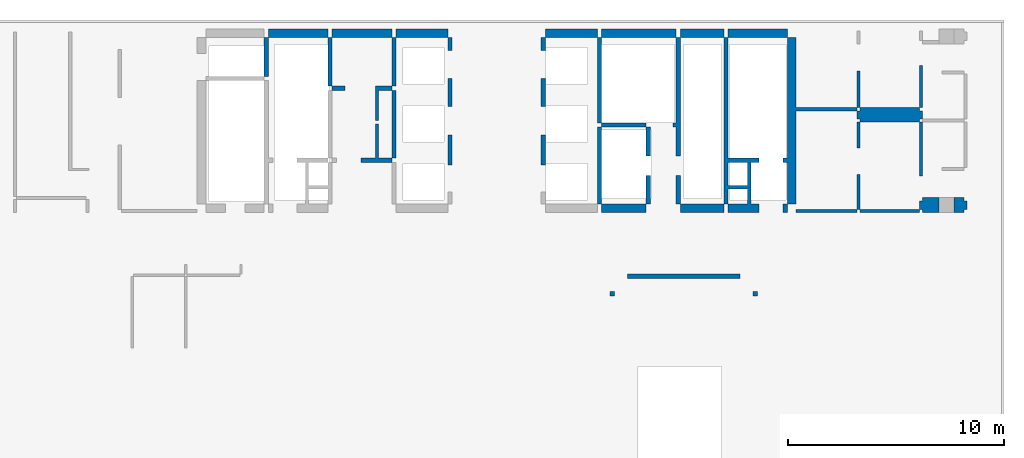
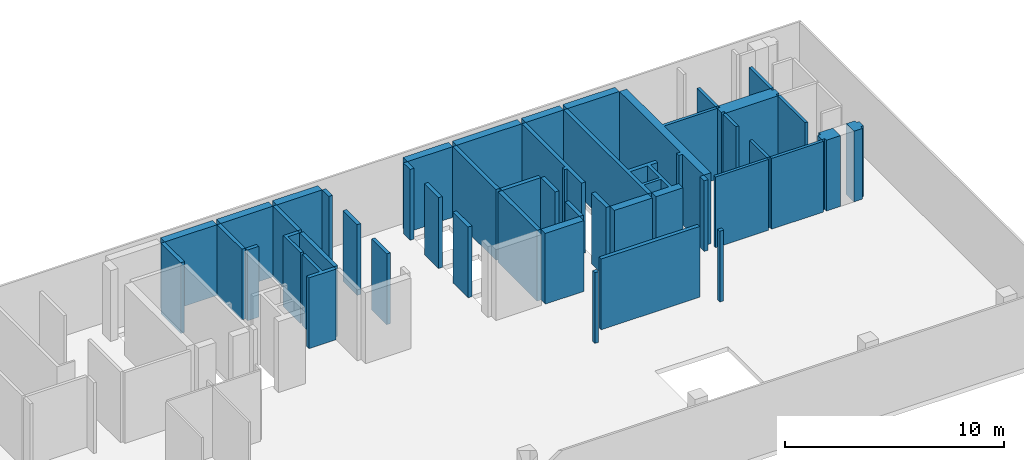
# One storey, part 2 of 4: 45 walls.
"""IFC4 building model written with IfcOpenShell, lengths in millimetres."""

from ifc_helpers import new_model, si_unit, frame, origin, place, context, project, spatial, triangles, element, save


model = new_model("IFC4")

# Units and contexts
model_context = context("Model", 3, precision=0.001, world=origin())
ifc_project = project(units=[si_unit("LENGTHUNIT", "METRE", prefix="MILLI"), si_unit("AREAUNIT", "SQUARE_METRE"), si_unit("VOLUMEUNIT", "CUBIC_METRE")], contexts=[model_context])

# Site, building, storey
site_placement = place(None, origin())
site = spatial("IfcSite", under=ifc_project, at=site_placement, Name="Site", CompositionType="ELEMENT")
building_placement = place(site_placement, origin())
building = spatial("IfcBuilding", under=site, at=building_placement, Name="INNOCEAN", CompositionType="ELEMENT")
storey_placement = place(building_placement, frame((0.0, 0.0, 55400.0)))
storey = spatial("IfcBuildingStorey", under=building, at=storey_placement, Name="F13", CompositionType="ELEMENT", Elevation=55400.0)

# Walls
wall_1_placement = place(storey_placement, origin())
element("IfcWall", 1, at=wall_1_placement, inside=storey, Name="F13_Walls_F13_022", context=model_context, shape_type="Tessellation", body=[
    triangles([(16226.2, 25025.8, 0.0), (16226.2, 23222.2, 0.0), (16226.2, 23222.2, 3950.0), (16226.2, 25025.8, 3950.0), (16429.3, 25025.8, 0.0), (16429.3, 25025.8, 3950.0), (16429.3, 23222.2, 0.0), (16429.3, 23222.2, 3950.0)], [[1, 2, 3], [1, 3, 4], [5, 1, 4], [5, 4, 6], [7, 5, 6], [7, 6, 8], [2, 7, 8], [2, 8, 3], [1, 5, 7], [1, 7, 2], [6, 4, 8], [8, 4, 3]], closed=True),
])
wall_2_placement = place(storey_placement, origin())
element("IfcWall", 2, at=wall_2_placement, inside=storey, Name="F13_Walls_F13_025", context=model_context, shape_type="Tessellation", body=[
    triangles([(19183.7, 25025.8, 0.0), (19183.7, 25419.5, 0.0), (19183.7, 25419.5, 3950.0), (19183.7, 25025.8, 3950.0), (16429.3, 25025.8, 0.0), (16429.3, 25025.8, 3950.0), (16429.3, 25419.5, 0.0), (16429.3, 25419.5, 3950.0)], [[1, 2, 3], [1, 3, 4], [5, 1, 4], [5, 4, 6], [7, 5, 6], [7, 6, 8], [2, 7, 8], [2, 8, 3], [7, 2, 1], [7, 1, 5], [3, 8, 4], [4, 8, 6]], closed=True),
])
wall_3_placement = place(storey_placement, origin())
element("IfcWall", 3, at=wall_3_placement, inside=storey, Name="F13_Walls_F13_026", context=model_context, shape_type="Tessellation", body=[
    triangles([(32422.7, 13073.9, 0.0), (32422.7, 13277.1, 0.0), (32422.7, 13277.1, 3950.0), (32422.7, 13073.9, 3950.0), (32219.6, 13073.9, 3950.0), (32219.6, 13073.9, 0.0), (32219.6, 13277.1, 0.0), (32219.6, 13277.1, 3950.0)], [[1, 2, 3], [1, 3, 4], [1, 4, 5], [6, 1, 5], [7, 6, 5], [7, 5, 8], [7, 8, 3], [2, 7, 3], [7, 2, 1], [7, 1, 6], [3, 8, 4], [4, 8, 5]], closed=True),
])
wall_4_placement = place(storey_placement, origin())
element("IfcWall", 4, at=wall_4_placement, inside=storey, Name="F13_Walls_F13_032", context=model_context, shape_type="Tessellation", body=[
    triangles([(31826.2, 20872.5, 0.0), (31826.2, 20872.5, 3950.0), (31826.2, 17316.1, 3950.0), (31826.2, 17316.1, 0.0), (31623.1, 17316.1, 3950.0), (31623.1, 17316.1, 0.0), (31623.1, 20872.5, 3950.0), (31623.1, 20872.5, 0.0)], [[1, 2, 3], [4, 1, 3], [4, 3, 5], [6, 4, 5], [6, 5, 7], [8, 6, 7], [8, 7, 2], [1, 8, 2], [8, 1, 4], [8, 4, 6], [2, 7, 3], [3, 7, 5]], closed=True),
])
wall_5_placement = place(storey_placement, origin())
element("IfcWall", 5, at=wall_5_placement, inside=storey, Name="F13_Walls_F13_034", context=model_context, shape_type="Tessellation", body=[
    triangles([(21366.9, 21024.9, 0.0), (21366.9, 19449.9, 0.0), (21366.9, 19449.9, 3950.0), (21366.9, 21024.9, 3950.0), (21519.3, 21024.9, 0.0), (21519.3, 21024.9, 3950.0), (21519.3, 19449.9, 0.0), (21519.3, 19449.9, 3950.0), (22128.5, 19449.9, 0.0), (22128.5, 19449.9, 3950.0), (22128.5, 19246.7, 0.0), (22128.5, 19246.7, 3950.0), (20694.2, 19246.7, 0.0), (20694.2, 19246.7, 3950.0), (20694.2, 19449.9, 0.0), (20694.2, 19449.9, 3950.0)], [[1, 2, 3], [1, 3, 4], [5, 1, 4], [5, 4, 6], [7, 5, 6], [7, 6, 8], [9, 7, 8], [9, 8, 10], [11, 9, 10], [11, 10, 12], [13, 11, 12], [13, 12, 14], [15, 13, 14], [15, 14, 16], [2, 15, 16], [2, 16, 3], [7, 9, 11], [2, 7, 11], [13, 2, 11], [15, 2, 13], [1, 5, 7], [1, 7, 2], [10, 8, 12], [8, 3, 12], [3, 14, 12], [3, 16, 14], [6, 4, 8], [8, 4, 3]], closed=True),
])
wall_6_placement = place(storey_placement, origin())
element("IfcWall", 6, at=wall_6_placement, inside=storey, Name="F13_Walls_F13_035", context=model_context, shape_type="Tessellation", body=[
    triangles([(29224.0, 20516.8, 0.0), (29224.0, 20516.8, 3950.0), (29224.0, 20515.0, 3950.0), (29224.0, 20515.0, 0.0), (29225.0, 20515.0, 0.0), (29225.0, 20515.0, 3950.0), (29225.0, 19120.0, 0.0), (29225.0, 19120.0, 3950.0), (29224.0, 19120.0, 0.0), (29224.0, 19120.0, 3950.0), (29224.0, 19119.7, 0.0), (29224.0, 19119.7, 3950.0), (29020.9, 19119.7, 0.0), (29020.9, 19119.7, 3950.0), (29020.9, 19120.0, 0.0), (29020.9, 19120.0, 3950.0), (29020.0, 19120.0, 0.0), (29020.0, 19120.0, 3950.0), (29020.0, 20515.0, 0.0), (29020.0, 20515.0, 3950.0), (29020.9, 20515.0, 0.0), (29020.9, 20515.0, 3950.0), (29020.9, 20516.8, 3950.0), (29020.9, 20516.8, 0.0)], [[1, 2, 3], [4, 1, 3], [5, 4, 3], [5, 3, 6], [7, 5, 6], [7, 6, 8], [9, 7, 8], [9, 8, 10], [11, 9, 10], [11, 10, 12], [13, 11, 12], [13, 12, 14], [15, 13, 14], [15, 14, 16], [17, 15, 16], [17, 16, 18], [19, 17, 18], [19, 18, 20], [21, 19, 20], [21, 20, 22], [21, 22, 23], [24, 21, 23], [1, 24, 23], [1, 23, 2], [15, 9, 11], [15, 11, 13], [4, 5, 7], [4, 7, 9], [4, 9, 15], [21, 4, 15], [19, 15, 17], [19, 21, 15], [24, 1, 4], [24, 4, 21], [10, 16, 12], [12, 16, 14], [6, 3, 8], [8, 3, 10], [10, 3, 16], [3, 22, 16], [16, 20, 18], [22, 20, 16], [2, 23, 3], [3, 23, 22]], closed=True),
])
wall_7_placement = place(storey_placement, origin())
element("IfcWall", 7, at=wall_7_placement, inside=storey, Name="F13_Walls_F13_036", context=model_context, shape_type="Tessellation", body=[
    triangles([(24730.0, 20515.0, 0.0), (24730.0, 19120.0, 0.0), (24730.0, 19120.0, 3950.0), (24730.0, 20515.0, 3950.0), (24730.6, 20515.0, 0.0), (24730.6, 20515.0, 3950.0), (24730.6, 20516.8, 3950.0), (24730.6, 20516.8, 0.0), (24921.0, 20516.8, 0.0), (24921.0, 20516.8, 3950.0), (24921.0, 19119.7, 0.0), (24921.0, 19119.7, 3950.0), (24730.6, 19119.7, 0.0), (24730.6, 19119.7, 3950.0), (24730.6, 19120.0, 0.0), (24730.6, 19120.0, 3950.0)], [[1, 2, 3], [1, 3, 4], [5, 1, 4], [5, 4, 6], [5, 6, 7], [8, 5, 7], [9, 8, 7], [9, 7, 10], [11, 9, 10], [11, 10, 12], [13, 11, 12], [13, 12, 14], [15, 13, 14], [15, 14, 16], [2, 15, 16], [2, 16, 3], [15, 11, 13], [5, 9, 11], [5, 11, 15], [1, 15, 2], [1, 5, 15], [8, 9, 5], [12, 16, 14], [10, 6, 12], [12, 6, 16], [16, 4, 3], [6, 4, 16], [10, 7, 6]], closed=True),
])
wall_8_placement = place(storey_placement, origin())
element("IfcWall", 8, at=wall_8_placement, inside=storey, Name="F13_Walls_F13_038", context=model_context, shape_type="Tessellation", body=[
    triangles([(22331.6, 19449.9, 0.0), (22331.6, 22574.4, 0.0), (22331.6, 22574.4, 3950.0), (22331.6, 19449.9, 3950.0), (22128.5, 19449.9, 0.0), (22128.5, 19449.9, 3950.0), (22128.5, 22574.4, 0.0), (22128.5, 22574.4, 3950.0)], [[1, 2, 3], [1, 3, 4], [5, 1, 4], [5, 4, 6], [7, 5, 6], [7, 6, 8], [2, 7, 8], [2, 8, 3], [2, 1, 5], [7, 2, 5], [4, 3, 6], [3, 8, 6]], closed=True),
])
wall_9_placement = place(storey_placement, origin())
element("IfcWall", 9, at=wall_9_placement, inside=storey, Name="F13_Walls_F13_039", context=model_context, shape_type="Tessellation", body=[
    triangles([(22128.5, 22765.0, 0.0), (21366.9, 22765.0, 0.0), (21366.9, 22765.0, 3950.0), (22128.5, 22765.0, 3950.0), (22128.5, 22574.4, 3950.0), (22128.5, 22574.4, 0.0), (21519.3, 22574.4, 0.0), (21519.3, 22574.4, 3950.0), (21519.3, 21177.3, 0.0), (21519.3, 21177.3, 3950.0), (21366.9, 21177.3, 0.0), (21366.9, 21177.3, 3950.0), (21366.9, 22574.4, 0.0), (21366.9, 22574.4, 3950.0)], [[1, 2, 3], [1, 3, 4], [1, 4, 5], [6, 1, 5], [7, 6, 5], [7, 5, 8], [9, 7, 8], [9, 8, 10], [11, 9, 10], [11, 10, 12], [13, 11, 12], [13, 12, 14], [13, 14, 3], [2, 13, 3], [7, 1, 6], [13, 7, 9], [13, 9, 11], [2, 1, 7], [2, 7, 13], [4, 8, 5], [8, 14, 10], [10, 14, 12], [4, 3, 8], [8, 3, 14]], closed=True),
])
wall_10_placement = place(storey_placement, origin())
element("IfcWall", 10, at=wall_10_placement, inside=storey, Name="F13_Walls_F13_040", context=model_context, shape_type="Tessellation", body=[
    triangles([(24920.0, 21825.0, 0.0), (24920.0, 21825.1, 0.0), (24920.0, 21825.1, 3950.0), (24920.0, 21825.0, 3950.0), (24730.0, 21825.0, 0.0), (24730.0, 21825.0, 3950.0), (24730.0, 23120.0, 3950.0), (24730.0, 23120.0, 0.0), (24730.6, 23120.0, 0.0), (24730.6, 23120.0, 3950.0), (24730.6, 23120.6, 0.0), (24730.6, 23120.6, 3950.0), (24921.0, 23120.6, 0.0), (24921.0, 23120.6, 3950.0), (24921.0, 21825.1, 0.0), (24921.0, 21825.1, 3950.0)], [[1, 2, 3], [1, 3, 4], [5, 1, 4], [5, 4, 6], [5, 6, 7], [8, 5, 7], [9, 8, 7], [9, 7, 10], [11, 9, 10], [11, 10, 12], [13, 11, 12], [13, 12, 14], [15, 13, 14], [15, 14, 16], [2, 15, 16], [2, 16, 3], [5, 2, 1], [13, 15, 2], [9, 13, 2], [9, 2, 5], [8, 9, 5], [11, 13, 9], [3, 6, 4], [16, 14, 3], [14, 10, 3], [3, 10, 6], [10, 7, 6], [14, 12, 10]], closed=True),
])
wall_11_placement = place(storey_placement, origin())
element("IfcWall", 11, at=wall_11_placement, inside=storey, Name="F13_Walls_F13_041", context=model_context, shape_type="Tessellation", body=[
    triangles([(29020.9, 23120.6, 0.0), (29020.9, 23120.0, 0.0), (29020.9, 23120.0, 3950.0), (29020.9, 23120.6, 3950.0), (29224.0, 23120.6, 0.0), (29224.0, 23120.6, 3950.0), (29224.0, 23120.0, 0.0), (29224.0, 23120.0, 3950.0), (29225.0, 23120.0, 0.0), (29225.0, 23120.0, 3950.0), (29225.0, 21825.0, 3950.0), (29225.0, 21825.0, 0.0), (29020.0, 21825.0, 0.0), (29020.0, 21825.0, 3950.0), (29020.0, 23120.0, 3950.0), (29020.0, 23120.0, 0.0)], [[1, 2, 3], [1, 3, 4], [5, 1, 4], [5, 4, 6], [7, 5, 6], [7, 6, 8], [9, 7, 8], [9, 8, 10], [9, 10, 11], [12, 9, 11], [13, 12, 11], [13, 11, 14], [13, 14, 15], [16, 13, 15], [2, 16, 15], [2, 15, 3], [7, 9, 12], [7, 12, 13], [2, 7, 13], [1, 5, 7], [1, 7, 2], [16, 2, 13], [10, 8, 11], [11, 8, 14], [8, 3, 14], [6, 4, 8], [8, 4, 3], [3, 15, 14]], closed=True),
])
wall_12_placement = place(storey_placement, origin())
element("IfcWall", 12, at=wall_12_placement, inside=storey, Name="F13_Walls_F13_042", context=model_context, shape_type="Tessellation", body=[
    triangles([(19970.7, 22765.0, 0.0), (19970.7, 22765.0, 3950.0), (19970.7, 22574.4, 3950.0), (19970.7, 22574.4, 0.0), (19374.1, 22574.4, 0.0), (19374.1, 22574.4, 3950.0), (19374.1, 22765.0, 3950.0), (19374.1, 22765.0, 0.0)], [[1, 2, 3], [4, 1, 3], [5, 4, 3], [5, 3, 6], [5, 6, 7], [8, 5, 7], [1, 8, 7], [1, 7, 2], [8, 1, 4], [8, 4, 5], [2, 7, 3], [3, 7, 6]], closed=True),
])
wall_13_placement = place(storey_placement, origin())
element("IfcWall", 13, at=wall_13_placement, inside=storey, Name="F13_Walls_F13_043", context=model_context, shape_type="Tessellation", body=[
    triangles([(31826.2, 21075.7, 3950.0), (31826.2, 25025.8, 0.0), (31826.2, 25025.8, 3950.0), (31826.2, 21075.7, 0.0), (31623.1, 21075.7, 3950.0), (31623.1, 21075.7, 0.0), (31623.1, 25025.8, 3950.0), (31623.1, 25025.8, 0.0)], [[1, 2, 3], [4, 2, 1], [4, 1, 5], [6, 4, 5], [7, 6, 5], [8, 6, 7], [8, 7, 3], [2, 8, 3], [2, 4, 6], [8, 2, 6], [1, 3, 5], [3, 7, 5]], closed=True),
])
wall_14_placement = place(storey_placement, origin())
element("IfcWall", 14, at=wall_14_placement, inside=storey, Name="F13_Walls_F13_044", context=model_context, shape_type="Tessellation", body=[
    triangles([(19374.1, 22765.0, 0.0), (19374.1, 25025.8, 0.0), (19374.1, 25025.8, 3950.0), (19374.1, 22765.0, 3950.0), (19183.7, 22765.0, 0.0), (19183.7, 22765.0, 3950.0), (19183.7, 25025.8, 0.0), (19183.7, 25025.8, 3950.0)], [[1, 2, 3], [1, 3, 4], [5, 1, 4], [5, 4, 6], [7, 5, 6], [7, 6, 8], [2, 7, 8], [2, 8, 3], [7, 2, 1], [7, 1, 5], [3, 8, 4], [4, 8, 6]], closed=True),
])
wall_15_placement = place(storey_placement, origin())
element("IfcWall", 15, at=wall_15_placement, inside=storey, Name="F13_Walls_F13_045", context=model_context, shape_type="Tessellation", body=[
    triangles([(22331.6, 22765.0, 0.0), (22331.6, 25025.8, 0.0), (22331.6, 25025.8, 3950.0), (22331.6, 22765.0, 3950.0), (22128.5, 22765.0, 0.0), (22128.5, 22765.0, 3950.0), (22128.5, 25025.8, 0.0), (22128.5, 25025.8, 3950.0)], [[1, 2, 3], [1, 3, 4], [5, 1, 4], [5, 4, 6], [7, 5, 6], [7, 6, 8], [2, 7, 8], [2, 8, 3], [7, 2, 1], [7, 1, 5], [3, 8, 4], [4, 8, 6]], closed=True),
])
wall_16_placement = place(storey_placement, origin())
element("IfcWall", 16, at=wall_16_placement, inside=storey, Name="F13_Walls_F13_046", context=model_context, shape_type="Tessellation", body=[
    triangles([(24921.0, 24416.1, 0.0), (24921.0, 25025.8, 0.0), (24921.0, 25025.8, 3950.0), (24921.0, 24416.1, 3950.0), (24730.6, 24416.1, 0.0), (24730.6, 24416.1, 3950.0), (24730.6, 25025.8, 0.0), (24730.6, 25025.8, 3950.0)], [[1, 2, 3], [1, 3, 4], [5, 1, 4], [5, 4, 6], [7, 5, 6], [7, 6, 8], [2, 7, 8], [2, 8, 3], [7, 2, 1], [7, 1, 5], [3, 8, 4], [4, 8, 6]], closed=True),
])
wall_17_placement = place(storey_placement, origin())
element("IfcWall", 17, at=wall_17_placement, inside=storey, Name="F13_Walls_F13_047", context=model_context, shape_type="Tessellation", body=[
    triangles([(29020.9, 24416.1, 0.0), (29224.0, 24416.1, 0.0), (29224.0, 24416.1, 3950.0), (29020.9, 24416.1, 3950.0), (29020.9, 25025.8, 0.0), (29020.9, 25025.8, 3950.0), (29224.0, 25025.8, 0.0), (29224.0, 25025.8, 3950.0)], [[1, 2, 3], [1, 3, 4], [5, 1, 4], [5, 4, 6], [7, 5, 6], [7, 6, 8], [2, 7, 8], [2, 8, 3], [5, 2, 1], [5, 7, 2], [3, 6, 4], [8, 6, 3]], closed=True),
])
wall_18_placement = place(storey_placement, origin())
element("IfcWall", 18, at=wall_18_placement, inside=storey, Name="F13_Walls_F13_048", context=model_context, shape_type="Tessellation", body=[
    triangles([(19374.1, 25025.8, 0.0), (22128.5, 25025.8, 0.0), (22128.5, 25025.8, 3950.0), (19374.1, 25025.8, 3950.0), (19374.1, 25419.5, 0.0), (19374.1, 25419.5, 3950.0), (22128.5, 25419.5, 0.0), (22128.5, 25419.5, 3950.0)], [[1, 2, 3], [1, 3, 4], [5, 1, 4], [5, 4, 6], [7, 5, 6], [7, 6, 8], [2, 7, 8], [2, 8, 3], [5, 2, 1], [5, 7, 2], [3, 6, 4], [8, 6, 3]], closed=True),
])
wall_19_placement = place(storey_placement, origin())
element("IfcWall", 19, at=wall_19_placement, inside=storey, Name="F13_Walls_F13_049", context=model_context, shape_type="Tessellation", body=[
    triangles([(24730.6, 25025.8, 0.0), (24730.6, 25419.5, 0.0), (24730.6, 25419.5, 3950.0), (24730.6, 25025.8, 3950.0), (22331.6, 25025.8, 0.0), (22331.6, 25025.8, 3950.0), (22331.6, 25419.5, 0.0), (22331.6, 25419.5, 3950.0)], [[1, 2, 3], [1, 3, 4], [5, 1, 4], [5, 4, 6], [7, 5, 6], [7, 6, 8], [2, 7, 8], [2, 8, 3], [7, 2, 1], [7, 1, 5], [3, 8, 4], [4, 8, 6]], closed=True),
])
wall_20_placement = place(storey_placement, origin())
element("IfcWall", 20, at=wall_20_placement, inside=storey, Name="F13_Walls_F13_050", context=model_context, shape_type="Tessellation", body=[
    triangles([(31623.1, 25025.8, 0.0), (31623.1, 25419.5, 0.0), (31623.1, 25419.5, 3950.0), (31623.1, 25025.8, 3950.0), (29224.0, 25025.8, 0.0), (29224.0, 25025.8, 3950.0), (29224.0, 25419.5, 0.0), (29224.0, 25419.5, 3950.0)], [[1, 2, 3], [1, 3, 4], [5, 1, 4], [5, 4, 6], [7, 5, 6], [7, 6, 8], [2, 7, 8], [2, 8, 3], [7, 2, 1], [7, 1, 5], [3, 8, 4], [4, 8, 6]], closed=True),
])
wall_21_placement = place(storey_placement, origin())
element("IfcWall", 21, at=wall_21_placement, inside=storey, Name="F13_Walls_F13_051", context=model_context, shape_type="Tessellation", body=[
    triangles([(39023.2, 13073.9, 0.0), (39023.2, 13277.1, 0.0), (39023.2, 13277.1, 3950.0), (39023.2, 13073.9, 3950.0), (38820.1, 13073.9, 0.0), (38820.1, 13073.9, 3950.0), (38820.1, 13277.1, 0.0), (38820.1, 13277.1, 3950.0)], [[1, 2, 3], [1, 3, 4], [5, 1, 4], [5, 4, 6], [7, 5, 6], [7, 6, 8], [2, 7, 8], [2, 8, 3], [2, 1, 5], [7, 2, 5], [4, 3, 6], [3, 8, 6]], closed=True),
])
wall_22_placement = place(storey_placement, origin())
element("IfcWall", 22, at=wall_22_placement, inside=storey, Name="F13_Walls_F13_052", context=model_context, shape_type="Tessellation", body=[
    triangles([(38223.5, 13874.1, 0.0), (38223.5, 14077.3, 0.0), (38223.5, 14077.3, 3950.0), (38223.5, 13874.1, 3950.0), (33019.3, 13874.1, 0.0), (33019.3, 13874.1, 3950.0), (33019.3, 14077.3, 0.0), (33019.3, 14077.3, 3950.0)], [[1, 2, 3], [1, 3, 4], [5, 1, 4], [5, 4, 6], [7, 5, 6], [7, 6, 8], [2, 7, 8], [2, 8, 3], [7, 2, 1], [7, 1, 5], [3, 8, 4], [4, 8, 6]], closed=True),
])
wall_23_placement = place(storey_placement, origin())
element("IfcWall", 23, at=wall_23_placement, inside=storey, Name="F13_Walls_F13_053", context=model_context, shape_type="Tessellation", body=[
    triangles([(43618.2, 16922.4, 0.0), (43618.2, 17074.8, 0.0), (43618.2, 17074.8, 3950.0), (43618.2, 16922.4, 3950.0), (40813.0, 16922.4, 0.0), (40813.0, 16922.4, 3950.0), (40813.0, 17074.8, 0.0), (40813.0, 17074.8, 3950.0)], [[1, 2, 3], [1, 3, 4], [5, 1, 4], [5, 4, 6], [7, 5, 6], [7, 6, 8], [2, 7, 8], [2, 8, 3], [5, 2, 1], [7, 2, 5], [3, 6, 4], [3, 8, 6]], closed=True),
])
wall_24_placement = place(storey_placement, origin())
element("IfcWall", 24, at=wall_24_placement, inside=storey, Name="F13_Walls_F13_054", context=model_context, shape_type="Tessellation", body=[
    triangles([(33869.8, 17316.1, 0.0), (33869.8, 17316.1, 3950.0), (33869.8, 16922.4, 3950.0), (33869.8, 16922.4, 0.0), (31826.2, 16922.4, 0.0), (31826.2, 16922.4, 3950.0), (31826.2, 17316.1, 3950.0), (31826.2, 17316.1, 0.0)], [[1, 2, 3], [4, 1, 3], [5, 4, 3], [5, 3, 6], [5, 6, 7], [8, 5, 7], [1, 8, 7], [1, 7, 2], [8, 1, 4], [8, 4, 5], [2, 7, 3], [3, 7, 6]], closed=True),
])
wall_25_placement = place(storey_placement, origin())
element("IfcWall", 25, at=wall_25_placement, inside=storey, Name="F13_Walls_F13_055", context=model_context, shape_type="Tessellation", body=[
    triangles([(40419.5, 17316.1, 0.0), (40419.5, 17316.1, 3950.0), (40419.5, 16922.4, 3950.0), (40419.5, 16922.4, 0.0), (40216.4, 16922.4, 0.0), (40216.4, 16922.4, 3950.0), (40216.4, 17316.1, 3950.0), (40216.4, 17316.1, 0.0)], [[1, 2, 3], [4, 1, 3], [5, 4, 3], [5, 3, 6], [5, 6, 7], [8, 5, 7], [1, 8, 7], [1, 7, 2], [8, 1, 4], [8, 4, 5], [2, 7, 3], [3, 7, 6]], closed=True),
])
wall_26_placement = place(storey_placement, origin())
element("IfcWall", 26, at=wall_26_placement, inside=storey, Name="F13_Walls_F13_056", context=model_context, shape_type="Tessellation", body=[
    triangles([(37474.6, 17316.1, 0.0), (37474.6, 17316.1, 3950.0), (37474.6, 16922.4, 3950.0), (37474.6, 16922.4, 0.0), (35469.1, 16922.4, 0.0), (35469.1, 16922.4, 3950.0), (35469.1, 17316.1, 3950.0), (35469.1, 17316.1, 0.0)], [[1, 2, 3], [4, 1, 3], [5, 4, 3], [5, 3, 6], [5, 6, 7], [8, 5, 7], [1, 8, 7], [1, 7, 2], [8, 1, 4], [8, 4, 5], [2, 7, 3], [3, 7, 6]], closed=True),
])
wall_27_placement = place(storey_placement, origin())
element("IfcWall", 27, at=wall_27_placement, inside=storey, Name="F13_Walls_F13_057", context=model_context, shape_type="Tessellation", body=[
    triangles([(37474.6, 19449.9, 0.0), (37474.6, 17316.1, 0.0), (37474.6, 17316.1, 3950.0), (37474.6, 19449.9, 3950.0), (37665.0, 17316.1, 0.0), (37665.0, 17316.1, 3950.0), (37665.0, 16922.4, 0.0), (37665.0, 16922.4, 3950.0), (39099.4, 16922.4, 0.0), (39099.4, 16922.4, 3950.0), (39099.4, 17316.1, 0.0), (39099.4, 17316.1, 3950.0), (38720.0, 17316.1, 0.0), (38720.0, 17316.1, 3950.0), (38720.0, 19245.0, 0.0), (38720.0, 19245.0, 3950.0), (39100.0, 19245.0, 0.0), (39100.0, 19245.0, 3950.0), (39100.0, 19450.0, 0.0), (39100.0, 19450.0, 3950.0), (37665.0, 19450.0, 0.0), (37665.0, 19450.0, 3950.0), (37665.0, 25025.8, 0.0), (37665.0, 25025.8, 3950.0), (37474.6, 25025.8, 0.0), (37474.6, 25025.8, 3950.0), (37665.0, 18014.7, 0.0), (37665.0, 18014.7, 3950.0), (38565.0, 18014.7, 0.0), (38565.0, 18014.7, 3950.0), (38565.0, 17316.1, 0.0), (38565.0, 17316.1, 3950.0), (37665.0, 19245.0, 0.0), (38565.0, 19245.0, 0.0), (38565.0, 19245.0, 3950.0), (37665.0, 19245.0, 3950.0), (38565.0, 18167.1, 0.0), (38565.0, 18167.1, 3950.0), (37665.0, 18167.1, 0.0), (37665.0, 18167.1, 3950.0)], [[1, 2, 3], [1, 3, 4], [2, 5, 6], [2, 6, 3], [7, 8, 6], [5, 7, 6], [7, 9, 10], [7, 10, 8], [11, 12, 10], [9, 11, 10], [11, 13, 14], [11, 14, 12], [13, 15, 16], [13, 16, 14], [17, 18, 16], [15, 17, 16], [17, 19, 20], [17, 20, 18], [19, 21, 22], [19, 22, 20], [21, 23, 24], [21, 24, 22], [23, 25, 26], [23, 26, 24], [25, 1, 4], [25, 4, 26], [5, 27, 28], [5, 28, 6], [27, 29, 30], [27, 30, 28], [29, 31, 32], [29, 32, 30], [31, 5, 6], [31, 6, 32], [33, 34, 35], [33, 35, 36], [34, 37, 38], [34, 38, 35], [37, 39, 40], [37, 40, 38], [39, 33, 36], [39, 36, 40], [13, 11, 9], [31, 13, 9], [7, 31, 9], [29, 13, 31], [5, 31, 7], [27, 5, 2], [39, 29, 27], [39, 37, 29], [39, 27, 2], [15, 19, 17], [34, 15, 37], [34, 19, 15], [21, 34, 33], [21, 19, 34], [1, 33, 39], [1, 21, 33], [1, 39, 2], [25, 23, 21], [25, 21, 1], [15, 13, 29], [15, 29, 37], [12, 14, 10], [14, 32, 10], [32, 8, 10], [14, 30, 32], [32, 6, 8], [6, 28, 3], [30, 40, 28], [38, 40, 30], [28, 40, 3], [20, 16, 18], [16, 35, 38], [20, 35, 16], [35, 22, 36], [20, 22, 35], [36, 4, 40], [22, 4, 36], [40, 4, 3], [24, 26, 22], [22, 26, 4], [14, 16, 30], [30, 16, 38]], closed=True),
])
wall_28_placement = place(storey_placement, origin())
element("IfcWall", 28, at=wall_28_placement, inside=storey, Name="F13_Walls_F13_058", context=model_context, shape_type="Tessellation", body=[
    triangles([(43770.5, 17074.8, 0.0), (43770.5, 18675.1, 0.0), (43770.5, 18675.1, 3950.0), (43770.5, 17074.8, 3950.0), (43618.2, 17074.8, 0.0), (43618.2, 17074.8, 3950.0), (43618.2, 18675.1, 0.0), (43618.2, 18675.1, 3950.0)], [[1, 2, 3], [1, 3, 4], [5, 1, 4], [5, 4, 6], [7, 5, 6], [7, 6, 8], [2, 7, 8], [2, 8, 3], [2, 1, 5], [7, 2, 5], [4, 3, 6], [3, 8, 6]], closed=True),
])
wall_29_placement = place(storey_placement, origin())
element("IfcWall", 29, at=wall_29_placement, inside=storey, Name="F13_Walls_F13_059", context=model_context, shape_type="Tessellation", body=[
    triangles([(34072.9, 17316.1, 0.0), (34072.9, 18649.7, 0.0), (34072.9, 18649.7, 3950.0), (34072.9, 17316.1, 3950.0), (33869.8, 17316.1, 0.0), (33869.8, 17316.1, 3950.0), (33869.8, 18649.7, 0.0), (33869.8, 18649.7, 3950.0)], [[1, 2, 3], [1, 3, 4], [5, 1, 4], [5, 4, 6], [7, 5, 6], [7, 6, 8], [2, 7, 8], [2, 8, 3], [7, 2, 1], [7, 1, 5], [3, 8, 4], [4, 8, 6]], closed=True),
])
wall_30_placement = place(storey_placement, origin())
element("IfcWall", 30, at=wall_30_placement, inside=storey, Name="F13_Walls_F13_060", context=model_context, shape_type="Tessellation", body=[
    triangles([(35469.1, 17316.1, 0.0), (35469.1, 18649.7, 0.0), (35469.1, 18649.7, 3950.0), (35469.1, 17316.1, 3950.0), (35266.0, 17316.1, 0.0), (35266.0, 17316.1, 3950.0), (35266.0, 18649.7, 0.0), (35266.0, 18649.7, 3950.0)], [[1, 2, 3], [1, 3, 4], [5, 1, 4], [5, 4, 6], [7, 5, 6], [7, 6, 8], [2, 7, 8], [2, 8, 3], [7, 2, 1], [7, 1, 5], [3, 8, 4], [4, 8, 6]], closed=True),
])
wall_31_placement = place(storey_placement, origin())
element("IfcWall", 31, at=wall_31_placement, inside=storey, Name="F13_Walls_F13_061", context=model_context, shape_type="Tessellation", body=[
    triangles([(40813.0, 21774.3, 0.0), (40813.0, 25025.8, 0.0), (40813.0, 25025.8, 3950.0), (40813.0, 21774.3, 3950.0), (43618.2, 21774.3, 0.0), (43618.2, 21774.3, 3950.0), (43618.2, 21621.8, 0.0), (43618.2, 21621.8, 3950.0), (40813.0, 21621.8, 0.0), (40813.0, 21621.8, 3950.0), (40813.0, 19449.9, 0.0), (40813.0, 19449.9, 3950.0), (40813.0, 17316.1, 0.0), (40813.0, 17316.1, 3950.0), (40419.5, 17316.1, 0.0), (40419.5, 17316.1, 3950.0), (40419.5, 19245.0, 0.0), (40419.5, 19245.0, 3950.0), (40215.0, 19245.0, 3950.0), (40215.0, 19245.0, 0.0), (40215.0, 19450.0, 0.0), (40215.0, 19450.0, 3950.0), (40419.5, 19450.0, 3950.0), (40419.5, 19450.0, 0.0), (40419.5, 25025.8, 0.0), (40419.5, 25025.8, 3950.0)], [[1, 2, 3], [1, 3, 4], [5, 1, 4], [5, 4, 6], [7, 5, 6], [7, 6, 8], [9, 7, 8], [9, 8, 10], [11, 9, 10], [11, 10, 12], [13, 11, 12], [13, 12, 14], [15, 13, 14], [15, 14, 16], [17, 15, 16], [17, 16, 18], [17, 18, 19], [20, 17, 19], [21, 20, 19], [21, 19, 22], [21, 22, 23], [24, 21, 23], [25, 24, 23], [25, 23, 26], [2, 25, 26], [2, 26, 3], [17, 11, 13], [17, 13, 15], [24, 17, 20], [24, 11, 17], [21, 24, 20], [9, 11, 24], [1, 5, 7], [1, 7, 9], [25, 2, 1], [24, 25, 1], [24, 1, 9], [12, 18, 14], [14, 18, 16], [18, 23, 19], [12, 23, 18], [23, 22, 19], [12, 10, 23], [6, 4, 8], [8, 4, 10], [3, 26, 4], [26, 23, 4], [4, 23, 10]], closed=True),
])
wall_32_placement = place(storey_placement, origin())
element("IfcWall", 32, at=wall_32_placement, inside=storey, Name="F13_Walls_F13_062", context=model_context, shape_type="Tessellation", body=[
    triangles([(34072.9, 19551.5, 0.0), (34072.9, 20872.5, 0.0), (34072.9, 20872.5, 3950.0), (34072.9, 19551.5, 3950.0), (33869.8, 19551.5, 0.0), (33869.8, 19551.5, 3950.0), (33869.8, 20872.5, 0.0), (33869.8, 20872.5, 3950.0)], [[1, 2, 3], [1, 3, 4], [5, 1, 4], [5, 4, 6], [7, 5, 6], [7, 6, 8], [2, 7, 8], [2, 8, 3], [7, 2, 1], [7, 1, 5], [3, 8, 4], [4, 8, 6]], closed=True),
])
wall_33_placement = place(storey_placement, origin())
element("IfcWall", 33, at=wall_33_placement, inside=storey, Name="F13_Walls_F13_063", context=model_context, shape_type="Tessellation", body=[
    triangles([(35469.1, 21075.7, 3950.0), (35469.1, 25025.8, 0.0), (35469.1, 25025.8, 3950.0), (35469.1, 21075.7, 0.0), (35469.1, 20872.5, 0.0), (35469.1, 20872.5, 3950.0), (35469.1, 19551.5, 0.0), (35469.1, 19551.5, 3950.0), (35266.0, 19551.5, 0.0), (35266.0, 19551.5, 3950.0), (35266.0, 20872.5, 0.0), (35266.0, 20872.5, 3950.0), (35126.4, 20872.5, 0.0), (35126.4, 20872.5, 3950.0), (35126.4, 21075.7, 0.0), (35126.4, 21075.7, 3950.0), (35266.0, 21075.7, 0.0), (35266.0, 21075.7, 3950.0), (35266.0, 25025.8, 3950.0), (35266.0, 25025.8, 0.0)], [[1, 2, 3], [4, 2, 1], [5, 4, 1], [5, 1, 6], [7, 5, 6], [7, 6, 8], [9, 7, 8], [9, 8, 10], [11, 9, 10], [11, 10, 12], [13, 11, 12], [13, 12, 14], [15, 13, 14], [15, 14, 16], [17, 15, 16], [17, 16, 18], [19, 17, 18], [20, 17, 19], [2, 20, 19], [2, 19, 3], [11, 5, 7], [11, 7, 9], [4, 5, 11], [17, 4, 11], [15, 11, 13], [15, 17, 11], [20, 2, 4], [20, 4, 17], [6, 12, 8], [8, 12, 10], [6, 1, 12], [1, 18, 12], [12, 16, 14], [18, 16, 12], [3, 19, 1], [1, 19, 18]], closed=True),
])
wall_34_placement = place(storey_placement, origin())
element("IfcWall", 34, at=wall_34_placement, inside=storey, Name="F13_Walls_F13_064", context=model_context, shape_type="Tessellation", body=[
    triangles([(33869.8, 20872.5, 0.0), (33869.8, 21075.7, 0.0), (33869.8, 21075.7, 3950.0), (33869.8, 20872.5, 3950.0), (31826.2, 20872.5, 0.0), (31826.2, 20872.5, 3950.0), (31826.2, 21075.7, 0.0), (31826.2, 21075.7, 3950.0)], [[1, 2, 3], [1, 3, 4], [5, 1, 4], [5, 4, 6], [7, 5, 6], [7, 6, 8], [2, 7, 8], [2, 8, 3], [7, 2, 1], [7, 1, 5], [3, 8, 4], [4, 8, 6]], closed=True),
])
wall_35_placement = place(storey_placement, origin())
element("IfcWall", 35, at=wall_35_placement, inside=storey, Name="F13_Walls_F13_066", context=model_context, shape_type="Tessellation", body=[
    triangles([(40419.5, 25025.8, 0.0), (40419.5, 25419.5, 0.0), (40419.5, 25419.5, 3950.0), (40419.5, 25025.8, 3950.0), (37665.0, 25025.8, 0.0), (37665.0, 25025.8, 3950.0), (37665.0, 25419.5, 0.0), (37665.0, 25419.5, 3950.0)], [[1, 2, 3], [1, 3, 4], [5, 1, 4], [5, 4, 6], [7, 5, 6], [7, 6, 8], [2, 7, 8], [2, 8, 3], [7, 2, 1], [7, 1, 5], [3, 8, 4], [4, 8, 6]], closed=True),
])
wall_36_placement = place(storey_placement, origin())
element("IfcWall", 36, at=wall_36_placement, inside=storey, Name="F13_Walls_F13_067", context=model_context, shape_type="Tessellation", body=[
    triangles([(37474.6, 25025.8, 0.0), (37474.6, 25419.5, 0.0), (37474.6, 25419.5, 3950.0), (37474.6, 25025.8, 3950.0), (35469.1, 25025.8, 0.0), (35469.1, 25025.8, 3950.0), (35469.1, 25419.5, 0.0), (35469.1, 25419.5, 3950.0)], [[1, 2, 3], [1, 3, 4], [5, 1, 4], [5, 4, 6], [7, 5, 6], [7, 6, 8], [2, 7, 8], [2, 8, 3], [7, 2, 1], [7, 1, 5], [3, 8, 4], [4, 8, 6]], closed=True),
])
wall_37_placement = place(storey_placement, origin())
element("IfcWall", 37, at=wall_37_placement, inside=storey, Name="F13_Walls_F13_068", context=model_context, shape_type="Tessellation", body=[
    triangles([(35266.0, 25025.8, 0.0), (35266.0, 25419.5, 0.0), (35266.0, 25419.5, 3950.0), (35266.0, 25025.8, 3950.0), (31826.2, 25025.8, 0.0), (31826.2, 25025.8, 3950.0), (31826.2, 25419.5, 0.0), (31826.2, 25419.5, 3950.0)], [[1, 2, 3], [1, 3, 4], [5, 1, 4], [5, 4, 6], [7, 5, 6], [7, 6, 8], [2, 7, 8], [2, 8, 3], [7, 2, 1], [7, 1, 5], [3, 8, 4], [4, 8, 6]], closed=True),
])
wall_38_placement = place(storey_placement, origin())
element("IfcWall", 38, at=wall_38_placement, inside=storey, Name="F13_Walls_F13_069", context=model_context, shape_type="Tessellation", body=[
    triangles([(46512.2, 16922.4, 0.0), (46512.2, 17074.8, 0.0), (46512.2, 17074.8, 3950.0), (46512.2, 16922.4, 3950.0), (43770.5, 16922.4, 0.0), (43770.5, 16922.4, 3950.0), (43770.5, 17074.8, 0.0), (43770.5, 17074.8, 3950.0)], [[1, 2, 3], [1, 3, 4], [5, 1, 4], [5, 4, 6], [7, 5, 6], [7, 6, 8], [2, 7, 8], [2, 8, 3], [7, 2, 1], [7, 1, 5], [3, 8, 4], [4, 8, 6]], closed=True),
])
wall_39_placement = place(storey_placement, origin())
element("IfcWall", 39, at=wall_39_placement, inside=storey, Name="F13_Walls_F13_070", context=model_context, shape_type="Tessellation", body=[
    triangles([(47413.4, 17468.5, 0.0), (47413.4, 17620.9, 0.0), (47413.4, 17620.9, 3950.0), (47413.4, 17468.5, 3950.0), (47413.4, 17074.8, 0.0), (47413.4, 17074.8, 3950.0), (47413.4, 16922.4, 0.0), (47413.4, 16922.4, 3950.0), (46664.5, 16922.4, 0.0), (46664.5, 16922.4, 3950.0), (46664.5, 17074.8, 0.0), (46664.5, 17074.8, 3950.0), (46512.2, 17074.8, 0.0), (46512.2, 17074.8, 3950.0), (46512.2, 17468.5, 0.0), (46512.2, 17468.5, 3950.0), (46664.5, 17468.5, 0.0), (46664.5, 17468.5, 3950.0), (46664.5, 17620.9, 0.0), (46664.5, 17620.9, 3950.0)], [[1, 2, 3], [1, 3, 4], [5, 1, 4], [5, 4, 6], [7, 5, 6], [7, 6, 8], [9, 7, 8], [9, 8, 10], [11, 9, 10], [11, 10, 12], [13, 11, 12], [13, 12, 14], [15, 13, 14], [15, 14, 16], [17, 15, 16], [17, 16, 18], [19, 17, 18], [19, 18, 20], [2, 19, 20], [2, 20, 3], [9, 5, 7], [11, 5, 9], [17, 1, 5], [17, 11, 13], [17, 5, 11], [15, 17, 13], [19, 2, 1], [19, 1, 17], [6, 10, 8], [6, 12, 10], [4, 18, 6], [12, 18, 14], [6, 18, 12], [18, 16, 14], [3, 20, 4], [4, 20, 18]], closed=True),
])
wall_40_placement = place(storey_placement, origin())
element("IfcWall", 40, at=wall_40_placement, inside=storey, Name="F13_Walls_F13_071", context=model_context, shape_type="Tessellation", body=[
    triangles([(48111.6, 17620.9, 0.0), (48111.6, 17468.5, 0.0), (48111.6, 17468.5, 3950.0), (48111.6, 17620.9, 3950.0), (48568.5, 17620.9, 0.0), (48568.5, 17620.9, 3950.0), (48568.5, 17468.5, 0.0), (48568.5, 17468.5, 3950.0), (48708.1, 17468.5, 0.0), (48708.1, 17468.5, 3950.0), (48708.1, 17074.8, 0.0), (48708.1, 17074.8, 3950.0), (48568.5, 17074.8, 0.0), (48568.5, 17074.8, 3950.0), (48568.5, 16922.4, 0.0), (48568.5, 16922.4, 3950.0), (48111.6, 16922.4, 0.0), (48111.6, 16922.4, 3950.0), (48111.6, 17074.8, 0.0), (48111.6, 17074.8, 3950.0)], [[1, 2, 3], [1, 3, 4], [5, 1, 4], [5, 4, 6], [7, 5, 6], [7, 6, 8], [9, 7, 8], [9, 8, 10], [11, 9, 10], [11, 10, 12], [13, 11, 12], [13, 12, 14], [15, 13, 14], [15, 14, 16], [17, 15, 16], [17, 16, 18], [19, 17, 18], [19, 18, 20], [2, 19, 20], [2, 20, 3], [7, 9, 11], [7, 11, 13], [19, 13, 15], [19, 15, 17], [19, 7, 13], [2, 7, 19], [1, 5, 7], [1, 7, 2], [10, 8, 12], [12, 8, 14], [14, 20, 16], [16, 20, 18], [8, 20, 14], [8, 3, 20], [6, 4, 8], [8, 4, 3]], closed=True),
])
wall_41_placement = place(storey_placement, origin())
element("IfcWall", 41, at=wall_41_placement, inside=storey, Name="F13_Walls_F13_073", context=model_context, shape_type="Tessellation", body=[
    triangles([(46664.5, 18624.3, 0.0), (46664.5, 21101.1, 0.0), (46664.5, 21101.1, 3950.0), (46664.5, 18624.3, 3950.0), (46512.2, 18624.3, 0.0), (46512.2, 18624.3, 3950.0), (46512.2, 21101.1, 0.0), (46512.2, 21101.1, 3950.0)], [[1, 2, 3], [1, 3, 4], [5, 1, 4], [5, 4, 6], [7, 5, 6], [7, 6, 8], [2, 7, 8], [2, 8, 3], [7, 2, 1], [7, 1, 5], [3, 8, 4], [4, 8, 6]], closed=True),
])
wall_42_placement = place(storey_placement, origin())
element("IfcWall", 42, at=wall_42_placement, inside=storey, Name="F13_Walls_F13_075", context=model_context, shape_type="Tessellation", body=[
    triangles([(43770.5, 19919.9, 0.0), (43770.5, 21101.1, 0.0), (43770.5, 21101.1, 3950.0), (43770.5, 19919.9, 3950.0), (43618.2, 19919.9, 0.0), (43618.2, 19919.9, 3950.0), (43618.2, 21101.1, 0.0), (43618.2, 21101.1, 3950.0)], [[1, 2, 3], [1, 3, 4], [5, 1, 4], [5, 4, 6], [7, 5, 6], [7, 6, 8], [2, 7, 8], [2, 8, 3], [7, 2, 1], [7, 1, 5], [3, 8, 4], [4, 8, 6]], closed=True),
])
wall_43_placement = place(storey_placement, origin())
element("IfcWall", 43, at=wall_43_placement, inside=storey, Name="F13_Walls_F13_076", context=model_context, shape_type="Tessellation", body=[
    triangles([(43770.0, 21240.0, 0.0), (43770.5, 21240.0, 0.0), (43770.5, 21240.0, 3950.0), (43770.0, 21240.0, 3950.0), (43770.0, 21240.8, 0.0), (43770.0, 21240.8, 3950.0), (43618.2, 21240.8, 3950.0), (43618.2, 21240.8, 0.0), (43618.2, 21621.8, 3950.0), (43618.2, 21621.8, 0.0), (43770.5, 21621.8, 0.0), (43770.5, 21621.8, 3950.0), (43770.5, 21774.3, 0.0), (43770.5, 21774.3, 3950.0), (46512.2, 21774.3, 0.0), (46512.2, 21774.3, 3950.0), (46512.2, 21621.8, 0.0), (46512.2, 21621.8, 3950.0), (46664.5, 21621.8, 0.0), (46664.5, 21621.8, 3950.0), (46664.5, 21240.8, 3950.0), (46664.5, 21240.8, 0.0), (46512.2, 21240.8, 0.0), (46512.2, 21240.8, 3950.0), (46512.2, 21101.1, 3950.0), (46512.2, 21101.1, 0.0), (43770.5, 21101.1, 0.0), (43770.5, 21101.1, 3950.0)], [[1, 2, 3], [1, 3, 4], [5, 1, 4], [5, 4, 6], [5, 6, 7], [8, 5, 7], [8, 7, 9], [10, 8, 9], [11, 10, 9], [11, 9, 12], [13, 11, 12], [13, 12, 14], [15, 13, 14], [15, 14, 16], [17, 15, 16], [17, 16, 18], [19, 17, 18], [19, 18, 20], [19, 20, 21], [22, 19, 21], [23, 22, 21], [23, 21, 24], [23, 24, 25], [26, 23, 25], [27, 26, 25], [27, 25, 28], [2, 27, 28], [2, 28, 3], [19, 22, 23], [17, 19, 23], [2, 23, 26], [2, 26, 27], [5, 2, 1], [11, 17, 23], [11, 23, 2], [11, 2, 5], [10, 5, 8], [10, 11, 5], [13, 15, 17], [13, 17, 11], [21, 20, 24], [20, 18, 24], [24, 3, 25], [25, 3, 28], [3, 6, 4], [18, 12, 24], [24, 12, 3], [3, 12, 6], [6, 9, 7], [12, 9, 6], [16, 14, 18], [18, 14, 12]], closed=True),
])
wall_44_placement = place(storey_placement, origin())
element("IfcWall", 44, at=wall_44_placement, inside=storey, Name="F13_Walls_F13_079", context=model_context, shape_type="Tessellation", body=[
    triangles([(43770.5, 21774.3, 0.0), (43770.5, 23476.2, 0.0), (43770.5, 23476.2, 3950.0), (43770.5, 21774.3, 3950.0), (43618.2, 21774.3, 0.0), (43618.2, 21774.3, 3950.0), (43618.2, 23476.2, 0.0), (43618.2, 23476.2, 3950.0)], [[1, 2, 3], [1, 3, 4], [5, 1, 4], [5, 4, 6], [7, 5, 6], [7, 6, 8], [2, 7, 8], [2, 8, 3], [7, 2, 1], [7, 1, 5], [3, 8, 4], [4, 8, 6]], closed=True),
])
wall_45_placement = place(storey_placement, origin())
element("IfcWall", 45, at=wall_45_placement, inside=storey, Name="F13_Walls_F13_080", context=model_context, shape_type="Tessellation", body=[
    triangles([(46664.5, 21774.3, 0.0), (46664.5, 23717.6, 0.0), (46664.5, 23717.6, 3950.0), (46664.5, 21774.3, 3950.0), (46512.2, 21774.3, 0.0), (46512.2, 21774.3, 3950.0), (46512.2, 23717.6, 0.0), (46512.2, 23717.6, 3950.0)], [[1, 2, 3], [1, 3, 4], [5, 1, 4], [5, 4, 6], [7, 5, 6], [7, 6, 8], [2, 7, 8], [2, 8, 3], [7, 2, 1], [7, 1, 5], [3, 8, 4], [4, 8, 6]], closed=True),
])

save(model, "model.ifc")
